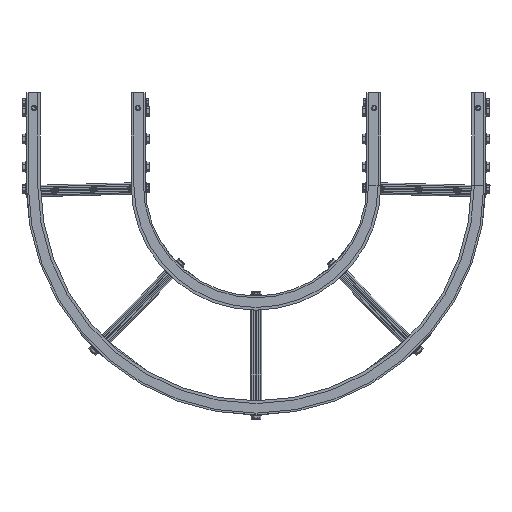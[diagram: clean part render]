
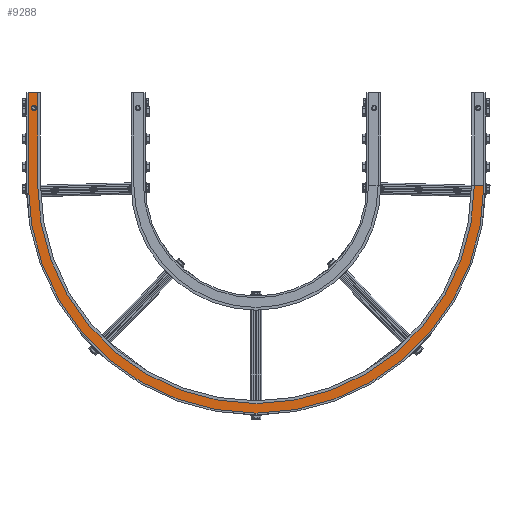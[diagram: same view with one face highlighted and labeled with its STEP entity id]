
A CAD part, front view. The second image highlights one B-rep face of the part: STEP entity #9288.
In plain terms, the highlighted planar face has unit normal (0, -1, 0) as drawn and (0, 1, 0) by its records, which use the part's own axes.
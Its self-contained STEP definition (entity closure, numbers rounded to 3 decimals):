
#157 = VERTEX_POINT ( 'NONE', #8558 ) ;
#751 = AXIS2_PLACEMENT_3D ( 'NONE', #21952, #9248, #14437 ) ;
#752 = EDGE_CURVE ( 'NONE', #17888, #13558, #19314, .T. ) ;
#919 = CARTESIAN_POINT ( 'NONE',  ( 5., 20., 0. ) ) ;
#1504 = LINE ( 'NONE', #919, #4978 ) ;
#1676 = EDGE_CURVE ( 'NONE', #17449, #2398, #18636, .T. ) ;
#1969 = EDGE_LOOP ( 'NONE', ( #18690, #7260 ) ) ;
#1982 = AXIS2_PLACEMENT_3D ( 'NONE', #20311, #18314, #14646 ) ;
#2398 = VERTEX_POINT ( 'NONE', #12479 ) ;
#3794 = DIRECTION ( 'NONE',  ( 0., 1., 0. ) ) ;
#4159 = LINE ( 'NONE', #16598, #9292 ) ;
#4611 = PLANE ( 'NONE',  #13727 ) ;
#4978 = VECTOR ( 'NONE', #17261, 1000. ) ;
#5245 = CARTESIAN_POINT ( 'NONE',  ( -4.25, 20., 120.9 ) ) ;
#5498 = VECTOR ( 'NONE', #9764, 1000. ) ;
#5720 = EDGE_CURVE ( 'NONE', #157, #16330, #4159, .T. ) ;
#6329 = CARTESIAN_POINT ( 'NONE',  ( -4.25, 20., 125. ) ) ;
#7118 = EDGE_CURVE ( 'NONE', #13558, #17888, #22116, .T. ) ;
#7243 = CARTESIAN_POINT ( 'NONE',  ( -4.25, 20., 129.1 ) ) ;
#7260 = ORIENTED_EDGE ( 'NONE', *, *, #7118, .F. ) ;
#7850 = EDGE_CURVE ( 'NONE', #18657, #16330, #12934, .T. ) ;
#8558 = CARTESIAN_POINT ( 'NONE',  ( 5., 20., 150. ) ) ;
#8889 = ORIENTED_EDGE ( 'NONE', *, *, #5720, .F. ) ;
#9248 = DIRECTION ( 'NONE',  ( 0., 1., 0. ) ) ;
#9288 = ADVANCED_FACE ( 'NONE', ( #12692, #15768 ), #4611, .F. ) ;
#9292 = VECTOR ( 'NONE', #12874, 1000. ) ;
#9597 = CARTESIAN_POINT ( 'NONE',  ( -10.5, 20., 0. ) ) ;
#9764 = DIRECTION ( 'NONE',  ( 1., 0., 0. ) ) ;
#9773 = ORIENTED_EDGE ( 'NONE', *, *, #1676, .T. ) ;
#10981 = EDGE_CURVE ( 'NONE', #2398, #20757, #15158, .T. ) ;
#11993 = DIRECTION ( 'NONE',  ( 0., 0., 1. ) ) ;
#12024 = DIRECTION ( 'NONE',  ( 0., -1., 0. ) ) ;
#12479 = CARTESIAN_POINT ( 'NONE',  ( -734., 20., 0. ) ) ;
#12692 = FACE_BOUND ( 'NONE', #1969, .T. ) ;
#12802 = ORIENTED_EDGE ( 'NONE', *, *, #15905, .F. ) ;
#12874 = DIRECTION ( 'NONE',  ( -1., 0., 0. ) ) ;
#12934 = LINE ( 'NONE', #9597, #14647 ) ;
#13094 = CARTESIAN_POINT ( 'NONE',  ( -10.5, 20., 150. ) ) ;
#13413 = AXIS2_PLACEMENT_3D ( 'NONE', #6329, #15584, #11993 ) ;
#13558 = VERTEX_POINT ( 'NONE', #5245 ) ;
#13727 = AXIS2_PLACEMENT_3D ( 'NONE', #15683, #12024, #18652 ) ;
#13755 = EDGE_LOOP ( 'NONE', ( #22109, #15484, #8889, #12802, #9773, #20093 ) ) ;
#13944 = CARTESIAN_POINT ( 'NONE',  ( 5., 20., 0. ) ) ;
#14437 = DIRECTION ( 'NONE',  ( 0., 0., 1. ) ) ;
#14646 = DIRECTION ( 'NONE',  ( 1., 0., 0. ) ) ;
#14647 = VECTOR ( 'NONE', #20574, 1000. ) ;
#15158 = LINE ( 'NONE', #22792, #5498 ) ;
#15484 = ORIENTED_EDGE ( 'NONE', *, *, #7850, .T. ) ;
#15584 = DIRECTION ( 'NONE',  ( 0., 1., 0. ) ) ;
#15683 = CARTESIAN_POINT ( 'NONE',  ( 5., 20., 0. ) ) ;
#15699 = AXIS2_PLACEMENT_3D ( 'NONE', #18544, #3794, #20148 ) ;
#15768 = FACE_OUTER_BOUND ( 'NONE', #13755, .T. ) ;
#15905 = EDGE_CURVE ( 'NONE', #17449, #157, #1504, .T. ) ;
#16151 = CARTESIAN_POINT ( 'NONE',  ( -718.5, 20., 0. ) ) ;
#16330 = VERTEX_POINT ( 'NONE', #13094 ) ;
#16598 = CARTESIAN_POINT ( 'NONE',  ( 5., 20., 150. ) ) ;
#17261 = DIRECTION ( 'NONE',  ( 0., 0., 1. ) ) ;
#17449 = VERTEX_POINT ( 'NONE', #13944 ) ;
#17888 = VERTEX_POINT ( 'NONE', #7243 ) ;
#18314 = DIRECTION ( 'NONE',  ( 0., 1., 0. ) ) ;
#18450 = CIRCLE ( 'NONE', #1982, 354. ) ;
#18544 = CARTESIAN_POINT ( 'NONE',  ( -364.5, 20., 0. ) ) ;
#18636 = CIRCLE ( 'NONE', #15699, 369.5 ) ;
#18652 = DIRECTION ( 'NONE',  ( 0., 0., -1. ) ) ;
#18657 = VERTEX_POINT ( 'NONE', #22825 ) ;
#18690 = ORIENTED_EDGE ( 'NONE', *, *, #752, .F. ) ;
#19314 = CIRCLE ( 'NONE', #751, 4.1 ) ;
#20093 = ORIENTED_EDGE ( 'NONE', *, *, #10981, .T. ) ;
#20148 = DIRECTION ( 'NONE',  ( 1., 0., 0. ) ) ;
#20311 = CARTESIAN_POINT ( 'NONE',  ( -364.5, 20., 0. ) ) ;
#20574 = DIRECTION ( 'NONE',  ( 0., 0., 1. ) ) ;
#20757 = VERTEX_POINT ( 'NONE', #16151 ) ;
#21579 = EDGE_CURVE ( 'NONE', #18657, #20757, #18450, .T. ) ;
#21952 = CARTESIAN_POINT ( 'NONE',  ( -4.25, 20., 125. ) ) ;
#22109 = ORIENTED_EDGE ( 'NONE', *, *, #21579, .F. ) ;
#22116 = CIRCLE ( 'NONE', #13413, 4.1 ) ;
#22792 = CARTESIAN_POINT ( 'NONE',  ( -734., 20., 0. ) ) ;
#22825 = CARTESIAN_POINT ( 'NONE',  ( -10.5, 20., 0. ) ) ;
